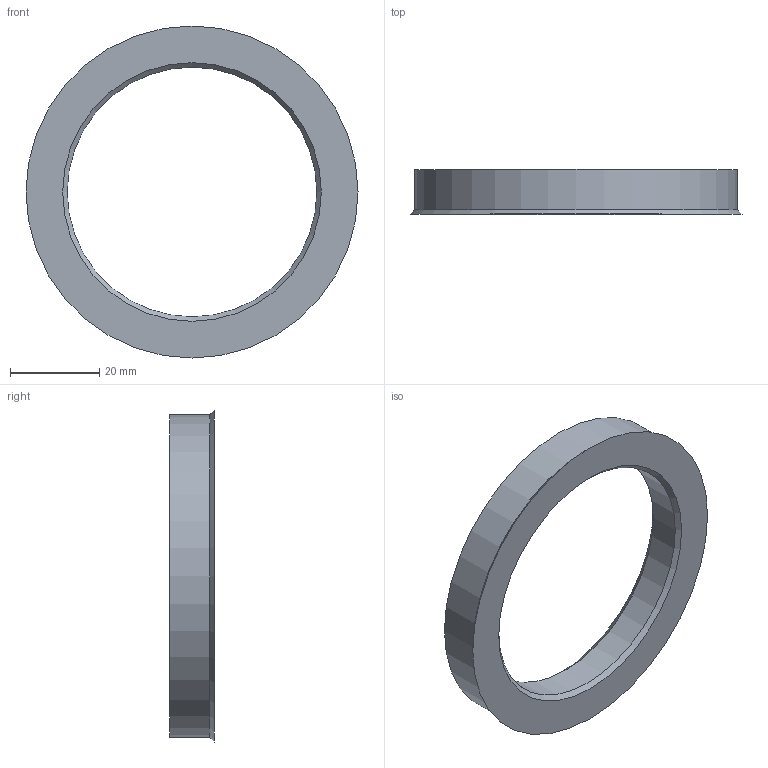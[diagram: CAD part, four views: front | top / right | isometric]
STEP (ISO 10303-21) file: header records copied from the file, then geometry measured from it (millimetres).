
FILE_DESCRIPTION(/* description */ (''),/* implementation_level */ '2;1');
FILE_NAME(/* name */ 'G:\CAD Library\Team Tasks\DIPP\11th Intake\Bradley Coles\Design Drafting\Random\Hub Rings\ipt\HubRing_72.6-56.1.stp',/* time_stamp */ '2025-07-22T13:44:25+08:00',/* author */ ('BCOLES'),/* organization */ (''),/* preprocessor_version */ 'ST-DEVELOPER v18.1',/* originating_system */ 'Autodesk Inventor 2022',/* authorisation */ '');
FILE_SCHEMA (('AUTOMOTIVE_DESIGN { 1 0 10303 214 3 1 1 }'));
Length unit declared in the file: millimetre
Products named in the file (1): HubRing_72.6-56.1
Bounding box: 74.6 x 10 x 74.6 mm (x, y, z)
Volume: 16343.4 mm3; surface area: 7405.8 mm2
Topology: 1 solids, 1 shells, 7 faces, 13 edges, 8 vertices
Faces by surface type: cone 3, cylinder 2, plane 2
Full cylindrical faces by diameter (mm): 56.1 x1, 72.6 x1
Entity records: 226 total; most frequent: DIRECTION 37, CARTESIAN_POINT 29, ORIENTED_EDGE 26, AXIS2_PLACEMENT_3D 16, EDGE_CURVE 13, EDGE_LOOP 9, CIRCLE 8, VERTEX_POINT 8
